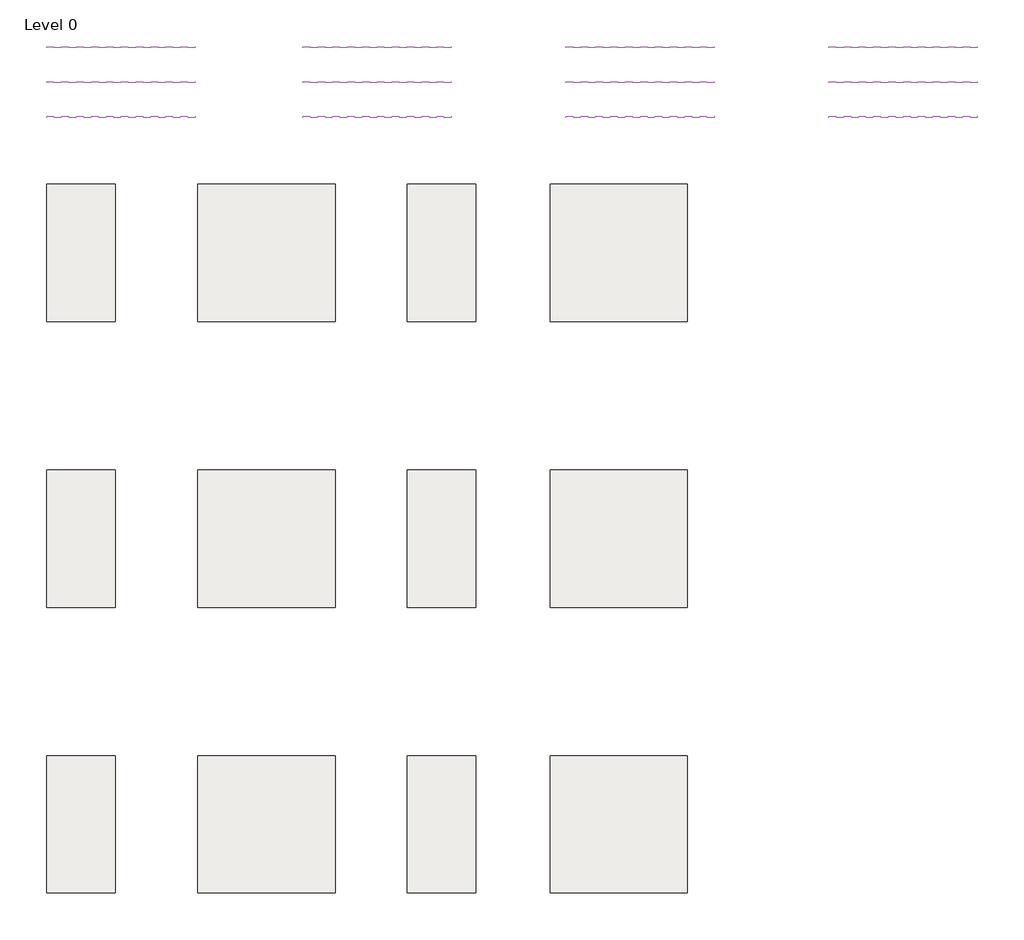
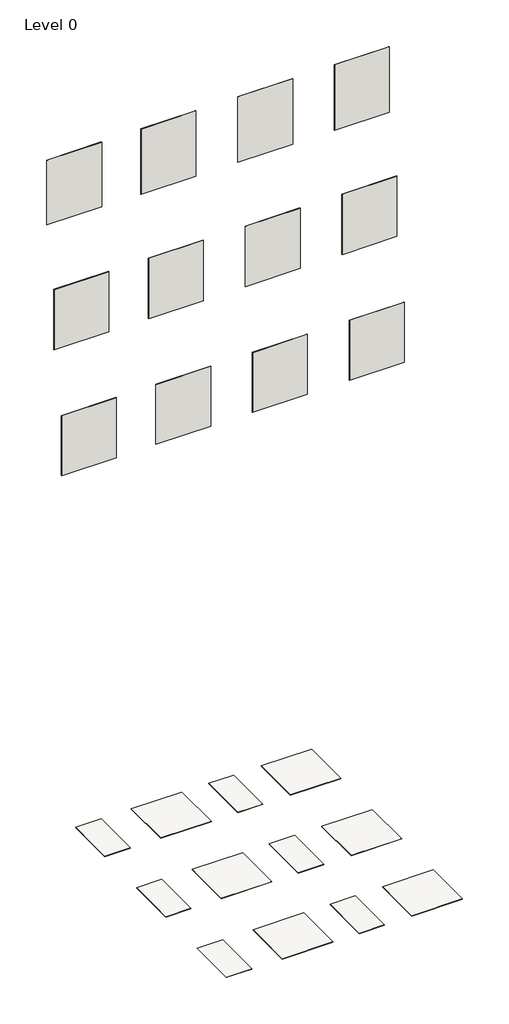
# One storey: 12 slabs, 12 walls.
"""IFC4 building model written with IfcOpenShell, lengths in millimetres."""

import ifcopenshell
import ifcopenshell.guid

model = None  # the IFC model being written
_history = None  # IfcOwnerHistory: only IFC2X3 demands one
_inside = {}  # id of a spatial element -> (the spatial element, [elements in it])
_under = {}  # id of a project, library or spatial element -> (it, [spatial elements below it])
_declared = {}  # id of a project -> (the project, [libraries it declares])
_typed = {}  # id of a type object -> (the type object, [elements of that type])
_made_of = {}  # id of a material, layer set ... -> (it, [elements and type objects made of it])


def new_model(schema):
    """Start an empty IFC model of exactly this schema.

    Asked for "IFC4X3", IfcOpenShell would pick the latest addendum, in which some entities
    have other attributes; the version numbers below select the first issue.
    IFC2X3 requires an IfcOwnerHistory on every rooted entity: one is made here for all.
    """
    global model, _history
    if schema == "IFC4X3":
        model = ifcopenshell.file(schema_version=(4, 3, 0, 0))
    else:
        model = ifcopenshell.file(schema=schema)
    _inside.clear()
    _under.clear()
    _declared.clear()
    _typed.clear()
    _made_of.clear()
    _history = None
    if model.schema == "IFC2X3":
        org = make("IfcOrganization", Name="unknown")
        user = make(
            "IfcPersonAndOrganization",
            ThePerson=make("IfcPerson", FamilyName="unknown"),
            TheOrganization=org,
        )
        app = make(
            "IfcApplication",
            ApplicationDeveloper=org,
            Version="unknown",
            ApplicationFullName="unknown",
            ApplicationIdentifier="unknown",
        )
        _history = make(
            "IfcOwnerHistory",
            OwningUser=user,
            OwningApplication=app,
            ChangeAction="ADDED",
            CreationDate=0,
        )
    return model


def make(cls, **values):
    """One entity of the class cls with the attributes given. An attribute that is None is left unset."""
    return model.create_entity(
        cls, **{name: value for name, value in values.items() if value is not None}
    )


def rooted(cls, **values):
    """An entity with a GlobalId (a new one), such as an element, a storey or a relation."""
    return make(cls, GlobalId=ifcopenshell.guid.new(), OwnerHistory=_history, **values)


def si_unit(unit_type, name, prefix=None):
    """IfcSIUnit, for example si_unit("LENGTHUNIT", "METRE", prefix="MILLI")."""
    return make("IfcSIUnit", UnitType=unit_type, Prefix=prefix, Name=name)


def assignment(units):
    """IfcUnitAssignment: the units of a project."""
    return None if units is None else make("IfcUnitAssignment", Units=units)


def point(xyz):
    """IfcCartesianPoint."""
    return None if xyz is None else make("IfcCartesianPoint", Coordinates=xyz)


def direction(xyz):
    """IfcDirection."""
    return None if xyz is None else make("IfcDirection", DirectionRatios=xyz)


def frame(location, z_axis=None, x_axis=None):
    """IfcAxis2Placement3D, a coordinate frame: its origin and axes. An axis left out is left unset."""
    return make(
        "IfcAxis2Placement3D",
        Location=point(location),
        Axis=direction(z_axis),
        RefDirection=direction(x_axis),
    )


def origin():
    """The frame at (0, 0, 0) with its axes left unset."""
    return frame((0.0, 0.0, 0.0))


def place(relative_to, where):
    """IfcLocalPlacement: puts the frame where relative to a parent placement (None: the world)."""
    return make(
        "IfcLocalPlacement", PlacementRelTo=relative_to, RelativePlacement=where
    )


def context(
    kind, dimensions, precision=None, world=None, true_north=None, identifier=None
):
    """IfcGeometricRepresentationContext, for example the 3D "Model" context."""
    return make(
        "IfcGeometricRepresentationContext",
        ContextIdentifier=identifier,
        ContextType=kind,
        CoordinateSpaceDimension=dimensions,
        Precision=precision,
        WorldCoordinateSystem=world,
        TrueNorth=true_north,
    )


def project(units=None, contexts=None):
    """IfcProject with its units and contexts."""
    return rooted(
        "IfcProject",
        Name="project",
        RepresentationContexts=contexts,
        UnitsInContext=assignment(units),
    )


def spatial(cls, under=None, at=None, **own):
    """A site, building, storey or space (cls), placed at a placement, below another one or the project."""
    s = rooted(cls, ObjectPlacement=at, **own)
    if under is not None:
        _under.setdefault(under.id(), (under, []))[1].append(s)
    return s


def polyline(points):
    """IfcPolyline through the points."""
    return make("IfcPolyline", Points=[point(p) for p in points])


def outline(outer, holes=None, kind="AREA"):
    """IfcArbitraryClosedProfileDef: a profile drawn as a closed curve; with holes, ...WithVoids."""
    if holes is None:
        return make("IfcArbitraryClosedProfileDef", ProfileType=kind, OuterCurve=outer)
    return make(
        "IfcArbitraryProfileDefWithVoids",
        ProfileType=kind,
        OuterCurve=outer,
        InnerCurves=holes,
    )


def extrude(swept, where, along, depth):
    """IfcExtrudedAreaSolid: the profile swept, set in the frame where, extruded along a direction by depth."""
    return make(
        "IfcExtrudedAreaSolid",
        SweptArea=swept,
        Position=where,
        ExtrudedDirection=direction(along),
        Depth=depth,
    )


def shape(context_of_items, identifier, shape_type, items):
    """IfcShapeRepresentation: the items that make up one representation, for example the "Body"."""
    return make(
        "IfcShapeRepresentation",
        ContextOfItems=context_of_items,
        RepresentationIdentifier=identifier,
        RepresentationType=shape_type,
        Items=items,
    )


def made_of(thing, what):
    """Note that an element or type object is made of a material, layer set ...; save() writes the relation."""
    if what is not None:
        _made_of.setdefault(what.id(), (what, []))[1].append(thing)
    return thing


def element(
    cls,
    number,
    at=None,
    inside=None,
    cuts=None,
    type_object=None,
    material=None,
    context=None,
    identifier="Body",
    shape_type=None,
    held_by="IfcProductDefinitionShape",
    body=None,
    shapes=None,
    **own,
):
    """One element of the class cls, such as IfcWall. Its Tag is "e" and its number.

    at: its placement. inside: the storey or other place that contains it. cuts: it is an
    opening in that element (IfcRelVoidsElement). A single representation is given by context,
    identifier, shape_type and body (its items); several are given by shapes. held_by: the class
    of the entity that holds the representations. save() writes the other relations.
    """
    e = rooted(cls, Tag="e%d" % number, ObjectPlacement=at, **own)
    if body is not None:
        shapes = [shape(context, identifier, shape_type, body)]
    if shapes is not None:
        e.Representation = make(held_by, Representations=shapes)
    if inside is not None:
        _inside.setdefault(inside.id(), (inside, []))[1].append(e)
    if cuts is not None:
        rooted(
            "IfcRelVoidsElement", RelatingBuildingElement=cuts, RelatedOpeningElement=e
        )
    if type_object is not None:
        _typed.setdefault(type_object.id(), (type_object, []))[1].append(e)
    return made_of(e, material)


def aggregate(whole, parts):
    """IfcRelAggregates: a whole, such as a stair, and the parts it consists of."""
    return rooted("IfcRelAggregates", RelatingObject=whole, RelatedObjects=parts)


def save(model, path):
    """Write the relations noted so far, then the file.

    IfcRelAggregates (storeys below a building ...), IfcRelContainedInSpatialStructure (elements
    in a storey), IfcRelDefinesByType, IfcRelAssociatesMaterial and IfcRelDeclares: one each for
    every whole, place, type object, material and project.
    """
    for whole, parts in _under.values():
        aggregate(whole, parts)
    for where, things in _inside.values():
        rooted(
            "IfcRelContainedInSpatialStructure",
            RelatedElements=things,
            RelatingStructure=where,
        )
    for kind, things in _typed.values():
        rooted("IfcRelDefinesByType", RelatedObjects=things, RelatingType=kind)
    for what, things in _made_of.values():
        rooted("IfcRelAssociatesMaterial", RelatedObjects=things, RelatingMaterial=what)
    for by, libraries in _declared.values():
        rooted("IfcRelDeclares", RelatingContext=by, RelatedDefinitions=libraries)
    model.write(path)


model = new_model("IFC4")

# Units and contexts
model_context = context("Model", 3, world=origin())
ifc_project = project(units=[si_unit("LENGTHUNIT", "METRE", prefix="MILLI")], contexts=[model_context])

# Site, building, storey
site = spatial("IfcSite", under=ifc_project)
building = spatial("IfcBuilding", under=site)
storey = spatial("IfcBuildingStorey", under=building, Name="Level 0", Elevation=0.0)

# Slabs
placement = place(None, origin())
element("IfcSlab", 1, ObjectType="Floor_Tiles_Refin-Cera-Scaglie-Fumo-Cerasilk-60x120 RF40", at=placement, inside=storey, context=model_context, shape_type="SweptSolid", body=[
    extrude(outline(polyline([(6974.3752062, 6939.4623743), (6974.3752062, 5739.4623743), (6374.3752062, 5739.4623743), (6374.3752062, 6939.4623743), (6974.3752062, 6939.4623743)])), frame((0.0, 0.0, -10.0), z_axis=(0.0, 0.0, 1.0), x_axis=(1.0, 0.0, 0.0)), (0.0, 0.0, 1.0), 10.0),
])
element("IfcSlab", 2, ObjectType="Floor_Tiles_Refin-Cera-Scaglie-Fumo-Cerasilk-120x120 RG00", at=placement, inside=storey, context=model_context, shape_type="SweptSolid", body=[
    extrude(outline(polyline([(8897.3924055, 6939.4623743), (8897.3924055, 5739.4623743), (7697.3924055, 5739.4623743), (7697.3924055, 6939.4623743), (8897.3924055, 6939.4623743)])), frame((0.0, 0.0, -10.0), z_axis=(0.0, 0.0, 1.0), x_axis=(1.0, 0.0, 0.0)), (0.0, 0.0, 1.0), 10.0),
])
element("IfcSlab", 3, ObjectType="Floor_Tiles_Refin-Cera-Scaglie-Fumo-Matt-Pro-60x120 RG06", at=placement, inside=storey, context=model_context, shape_type="SweptSolid", body=[
    extrude(outline(polyline([(10127.1861419, 6939.4623743), (10127.1861419, 5739.4623743), (9527.1861419, 5739.4623743), (9527.1861419, 6939.4623743), (10127.1861419, 6939.4623743)])), frame((0.0, 0.0, -10.0), z_axis=(0.0, 0.0, 1.0), x_axis=(1.0, 0.0, 0.0)), (0.0, 0.0, 1.0), 10.0),
])
element("IfcSlab", 4, ObjectType="Floor_Tiles_Refin-Cera-Scaglie-Fumo-Matt-Pro-120x120 RG03", at=placement, inside=storey, context=model_context, shape_type="SweptSolid", body=[
    extrude(outline(polyline([(11976.9798783, 6939.4623743), (11976.9798783, 5739.4623743), (10776.9798783, 5739.4623743), (10776.9798783, 6939.4623743), (11976.9798783, 6939.4623743)])), frame((0.0, 0.0, -10.0), z_axis=(0.0, 0.0, 1.0), x_axis=(1.0, 0.0, 0.0)), (0.0, 0.0, 1.0), 10.0),
])
element("IfcSlab", 5, ObjectType="Floor_Tiles_Refin-Cera-Scaglie-Incenso-Cerasilk-60x120 RF41", at=placement, inside=storey, context=model_context, shape_type="SweptSolid", body=[
    extrude(outline(polyline([(6974.3752062, 4439.4623743), (6974.3752062, 3239.4623743), (6374.3752062, 3239.4623743), (6374.3752062, 4439.4623743), (6974.3752062, 4439.4623743)])), frame((0.0, 0.0, -10.0), z_axis=(0.0, 0.0, 1.0), x_axis=(1.0, 0.0, 0.0)), (0.0, 0.0, 1.0), 10.0),
])
element("IfcSlab", 6, ObjectType="Floor_Tiles_Refin-Cera-Scaglie-Incenso-Cerasilk-120x120 RG01", at=placement, inside=storey, context=model_context, shape_type="SweptSolid", body=[
    extrude(outline(polyline([(8897.3924055, 4439.4623743), (8897.3924055, 3239.4623743), (7697.3924055, 3239.4623743), (7697.3924055, 4439.4623743), (8897.3924055, 4439.4623743)])), frame((0.0, 0.0, -10.0), z_axis=(0.0, 0.0, 1.0), x_axis=(1.0, 0.0, 0.0)), (0.0, 0.0, 1.0), 10.0),
])
element("IfcSlab", 7, ObjectType="Floor_Tiles_Refin-Cera-Scaglie-Incenso-Matt-Pro-60x120 RG07", at=placement, inside=storey, context=model_context, shape_type="SweptSolid", body=[
    extrude(outline(polyline([(10127.1861419, 4439.4623743), (10127.1861419, 3239.4623743), (9527.1861419, 3239.4623743), (9527.1861419, 4439.4623743), (10127.1861419, 4439.4623743)])), frame((0.0, 0.0, -10.0), z_axis=(0.0, 0.0, 1.0), x_axis=(1.0, 0.0, 0.0)), (0.0, 0.0, 1.0), 10.0),
])
element("IfcSlab", 8, ObjectType="Floor_Tiles_Refin-Cera-Scaglie-Incenso-Matt-Pro-120x120 RG04", at=placement, inside=storey, context=model_context, shape_type="SweptSolid", body=[
    extrude(outline(polyline([(11976.9798783, 4439.4623743), (11976.9798783, 3239.4623743), (10776.9798783, 3239.4623743), (10776.9798783, 4439.4623743), (11976.9798783, 4439.4623743)])), frame((0.0, 0.0, -10.0), z_axis=(0.0, 0.0, 1.0), x_axis=(1.0, 0.0, 0.0)), (0.0, 0.0, 1.0), 10.0),
])
element("IfcSlab", 9, ObjectType="Floor_Tiles_Refin-Cera-Scaglie-Multicolor-Cerasilk-60x120 RF42", at=placement, inside=storey, context=model_context, shape_type="SweptSolid", body=[
    extrude(outline(polyline([(6974.3752062, 1939.4623743), (6974.3752062, 739.4623743), (6374.3752062, 739.4623743), (6374.3752062, 1939.4623743), (6974.3752062, 1939.4623743)])), frame((0.0, 0.0, -10.0), z_axis=(0.0, 0.0, 1.0), x_axis=(1.0, 0.0, 0.0)), (0.0, 0.0, 1.0), 10.0),
])
element("IfcSlab", 10, ObjectType="Floor_Tiles_Refin-Cera-Scaglie-Multicolor-Cerasilk-120x120 RG02", at=placement, inside=storey, context=model_context, shape_type="SweptSolid", body=[
    extrude(outline(polyline([(8897.3924055, 1939.4623743), (8897.3924055, 739.4623743), (7697.3924055, 739.4623743), (7697.3924055, 1939.4623743), (8897.3924055, 1939.4623743)])), frame((0.0, 0.0, -10.0), z_axis=(0.0, 0.0, 1.0), x_axis=(1.0, 0.0, 0.0)), (0.0, 0.0, 1.0), 10.0),
])
element("IfcSlab", 11, ObjectType="Floor_Tiles_Refin-Cera-Scaglie-Multicolor-Matt-Pro-60x120 RG08", at=placement, inside=storey, context=model_context, shape_type="SweptSolid", body=[
    extrude(outline(polyline([(10127.1861419, 1939.4623743), (10127.1861419, 739.4623743), (9527.1861419, 739.4623743), (9527.1861419, 1939.4623743), (10127.1861419, 1939.4623743)])), frame((0.0, 0.0, -10.0), z_axis=(0.0, 0.0, 1.0), x_axis=(1.0, 0.0, 0.0)), (0.0, 0.0, 1.0), 10.0),
])
element("IfcSlab", 12, ObjectType="Floor_Tiles_Refin-Cera-Scaglie-Multicolor-Matt-Pro-120x120 RG05", at=placement, inside=storey, context=model_context, shape_type="SweptSolid", body=[
    extrude(outline(polyline([(11976.9798783, 1939.4623743), (11976.9798783, 739.4623743), (10776.9798783, 739.4623743), (10776.9798783, 1939.4623743), (11976.9798783, 1939.4623743)])), frame((0.0, 0.0, -10.0), z_axis=(0.0, 0.0, 1.0), x_axis=(1.0, 0.0, 0.0)), (0.0, 0.0, 1.0), 10.0),
])

# Walls
element("IfcWall", 13, ObjectType="Wall_Tiles_Refin-Cera-Scaglie-Fumo-Cerasilk-120x120 RG00", at=placement, inside=storey, context=model_context, shape_type="SweptSolid", body=[
    extrude(outline(polyline([(9914.3752062, 8132.3838631), (8614.3752062, 8132.3838631), (8614.3752062, 8142.3838631), (9914.3752062, 8142.3838631), (9914.3752062, 8132.3838631)])), frame((0.0, 0.0, 14387.6770443), z_axis=(0.0, 0.0, 1.0), x_axis=(1.0, 0.0, 0.0)), (0.0, 0.0, 1.0), 1641.7417352),
])
element("IfcWall", 14, ObjectType="Wall_Tiles_Refin-Cera-Scaglie-Fumo-Matt-Pro-60x120 RG06", at=placement, inside=storey, context=model_context, shape_type="SweptSolid", body=[
    extrude(outline(polyline([(12214.3752062, 8132.3838631), (10914.3752062, 8132.3838631), (10914.3752062, 8142.3838631), (12214.3752062, 8142.3838631), (12214.3752062, 8132.3838631)])), frame((0.0, 0.0, 14387.6770443), z_axis=(0.0, 0.0, 1.0), x_axis=(1.0, 0.0, 0.0)), (0.0, 0.0, 1.0), 1641.7417352),
])
element("IfcWall", 15, ObjectType="Wall_Tiles_Refin-Cera-Scaglie-Fumo-Cerasilk-60x120 RF40", at=placement, inside=storey, context=model_context, shape_type="SweptSolid", body=[
    extrude(outline(polyline([(7674.3752062, 8132.3838631), (6374.3752062, 8132.3838631), (6374.3752062, 8142.3838631), (7674.3752062, 8142.3838631), (7674.3752062, 8132.3838631)])), frame((0.0, 0.0, 14403.7267346), z_axis=(0.0, 0.0, 1.0), x_axis=(1.0, 0.0, 0.0)), (0.0, 0.0, 1.0), 1625.692045),
])
element("IfcWall", 16, ObjectType="Wall_Tiles_Refin-Cera-Scaglie-Incenso-Cerasilk-60x120 RF41", at=placement, inside=storey, context=model_context, shape_type="SweptSolid", body=[
    extrude(outline(polyline([(7674.3752062, 7827.3838631), (6374.3752062, 7827.3838631), (6374.3752062, 7837.3838631), (7674.3752062, 7837.3838631), (7674.3752062, 7827.3838631)])), frame((0.0, 0.0, 11452.5436262), z_axis=(0.0, 0.0, 1.0), x_axis=(1.0, 0.0, 0.0)), (0.0, 0.0, 1.0), 1513.1985566),
])
element("IfcWall", 17, ObjectType="Wall_Tiles_Refin-Cera-Scaglie-Multicolor-Cerasilk-60x120 RF42", at=placement, inside=storey, context=model_context, shape_type="SweptSolid", body=[
    extrude(outline(polyline([(7674.3752062, 7522.3838631), (6374.3752062, 7522.3838631), (6374.3752062, 7532.3838631), (7674.3752062, 7532.3838631), (7674.3752062, 7522.3838631)])), frame((0.0, 0.0, 8479.1027214), z_axis=(0.0, 0.0, 1.0), x_axis=(1.0, 0.0, 0.0)), (0.0, 0.0, 1.0), 1502.5740159),
])
element("IfcWall", 18, ObjectType="Wall_Tiles_Refin-Cera-Scaglie-Incenso-Matt-Pro-120x120 RG04", at=placement, inside=storey, context=model_context, shape_type="SweptSolid", body=[
    extrude(outline(polyline([(14514.3752062, 7827.3838631), (13214.3752062, 7827.3838631), (13214.3752062, 7837.3838631), (14514.3752062, 7837.3838631), (14514.3752062, 7827.3838631)])), frame((0.0, 0.0, 11452.5436262), z_axis=(0.0, 0.0, 1.0), x_axis=(1.0, 0.0, 0.0)), (0.0, 0.0, 1.0), 1513.1985566),
])
element("IfcWall", 19, ObjectType="Wall_Tiles_Refin-Cera-Scaglie-Fumo-Matt-Pro-120x120 RG03", at=placement, inside=storey, context=model_context, shape_type="SweptSolid", body=[
    extrude(outline(polyline([(14514.3752062, 8132.3838631), (13214.3752062, 8132.3838631), (13214.3752062, 8142.3838631), (14514.3752062, 8142.3838631), (14514.3752062, 8132.3838631)])), frame((0.0, 0.0, 14387.6770443), z_axis=(0.0, 0.0, 1.0), x_axis=(1.0, 0.0, 0.0)), (0.0, 0.0, 1.0), 1641.7417352),
])
element("IfcWall", 20, ObjectType="Wall_Tiles_Refin-Cera-Scaglie-Multicolor-Cerasilk-120x120 RG02", at=placement, inside=storey, context=model_context, shape_type="SweptSolid", body=[
    extrude(outline(polyline([(9914.3752062, 7522.3838631), (8614.3752062, 7522.3838631), (8614.3752062, 7532.3838631), (9914.3752062, 7532.3838631), (9914.3752062, 7522.3838631)])), frame((0.0, 0.0, 8479.1027214), z_axis=(0.0, 0.0, 1.0), x_axis=(1.0, 0.0, 0.0)), (0.0, 0.0, 1.0), 1502.5740159),
])
element("IfcWall", 21, ObjectType="Wall_Tiles_Refin-Cera-Scaglie-Multicolor-Matt-Pro-60x120 RG08", at=placement, inside=storey, context=model_context, shape_type="SweptSolid", body=[
    extrude(outline(polyline([(12214.3752062, 7522.3838631), (10914.3752062, 7522.3838631), (10914.3752062, 7532.3838631), (12214.3752062, 7532.3838631), (12214.3752062, 7522.3838631)])), frame((0.0, 0.0, 8479.1027214), z_axis=(0.0, 0.0, 1.0), x_axis=(1.0, 0.0, 0.0)), (0.0, 0.0, 1.0), 1502.5740159),
])
element("IfcWall", 22, ObjectType="Wall_Tiles_Refin-Cera-Scaglie-Multicolor-Matt-Pro-120x120 RG05", at=placement, inside=storey, context=model_context, shape_type="SweptSolid", body=[
    extrude(outline(polyline([(14514.3752062, 7522.3838631), (13214.3752062, 7522.3838631), (13214.3752062, 7532.3838631), (14514.3752062, 7532.3838631), (14514.3752062, 7522.3838631)])), frame((0.0, 0.0, 8479.1027214), z_axis=(0.0, 0.0, 1.0), x_axis=(1.0, 0.0, 0.0)), (0.0, 0.0, 1.0), 1502.5740159),
])
element("IfcWall", 23, ObjectType="Wall_Tiles_Refin-Cera-Scaglie-Incenso-Cerasilk-120x120 RG01", at=placement, inside=storey, context=model_context, shape_type="SweptSolid", body=[
    extrude(outline(polyline([(9914.3752062, 7827.3838631), (8614.3752062, 7827.3838631), (8614.3752062, 7837.3838631), (9914.3752062, 7837.3838631), (9914.3752062, 7827.3838631)])), frame((0.0, 0.0, 11452.5436262), z_axis=(0.0, 0.0, 1.0), x_axis=(1.0, 0.0, 0.0)), (0.0, 0.0, 1.0), 1513.1985566),
])
element("IfcWall", 24, ObjectType="Wall_Tiles_Refin-Cera-Scaglie-Incenso-Matt-Pro-60x120 RG07", at=placement, inside=storey, context=model_context, shape_type="SweptSolid", body=[
    extrude(outline(polyline([(12214.3752062, 7827.3838631), (10914.3752062, 7827.3838631), (10914.3752062, 7837.3838631), (12214.3752062, 7837.3838631), (12214.3752062, 7827.3838631)])), frame((0.0, 0.0, 11452.5436262), z_axis=(0.0, 0.0, 1.0), x_axis=(1.0, 0.0, 0.0)), (0.0, 0.0, 1.0), 1513.1985566),
])

save(model, "model.ifc")
